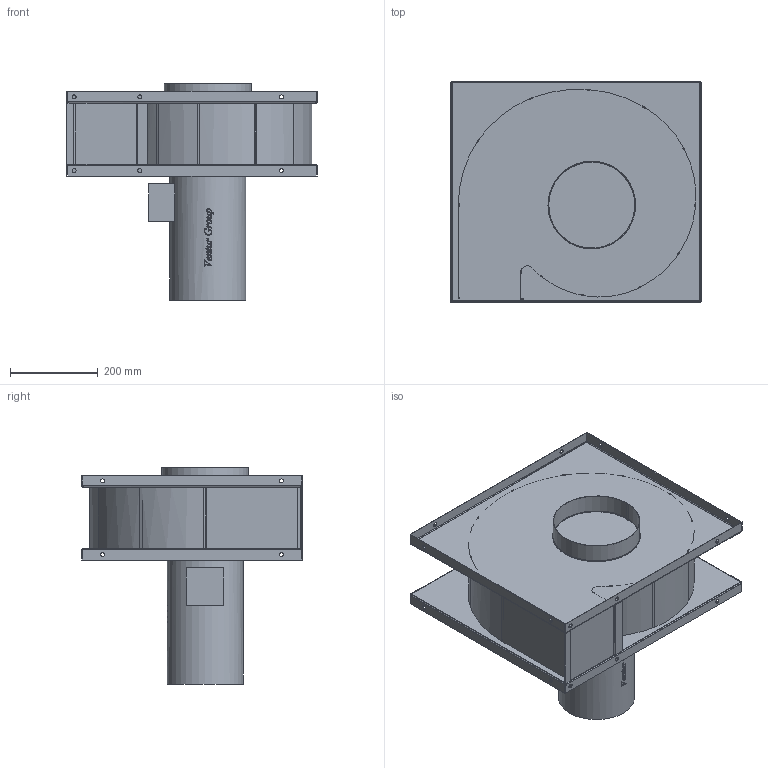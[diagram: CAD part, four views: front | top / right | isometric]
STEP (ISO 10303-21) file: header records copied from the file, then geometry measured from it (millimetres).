
FILE_DESCRIPTION(/* description */ (''),/* implementation_level */ '2;1');
FILE_NAME(/* name */ 'T:\BAZA\BAZA\Modele uproszczone\GMT\GMT_300_220_RD90_42551820\GMT_300_220_RD90_42551820.stp',/* time_stamp */ '2016-08-17T16:44:14+02:00',/* author */ ('tomaszm'),/* organization */ (''),/* preprocessor_version */ 'ST-DEVELOPER v16.5',/* originating_system */ 'Autodesk Inventor 2017',/* authorisation */ '');
FILE_SCHEMA (('AUTOMOTIVE_DESIGN { 1 0 10303 214 3 1 1 }'));
Length unit declared in the file: centimetre
Products named in the file (1): GMT-300-220
Bounding box: 571 x 503 x 493.5 mm (x, y, z)
Volume: 38705375.6 mm3; surface area: 1485527.5 mm2
Topology: 1 solids, 1 shells, 870 faces, 2480 edges, 1630 vertices
Faces by surface type: plane 384, bspline 326, cylinder 158, torus 2
Full cylindrical faces by diameter (mm): 3 x1, 9.2 x18, 173.394 x1, 200 x1
Entity records: 33379 total; most frequent: CARTESIAN_POINT 12143, ORIENTED_EDGE 4906, DIRECTION 3339, EDGE_CURVE 2453, VERTEX_POINT 1625, LINE 1349, VECTOR 1349, AXIS2_PLACEMENT_3D 995
